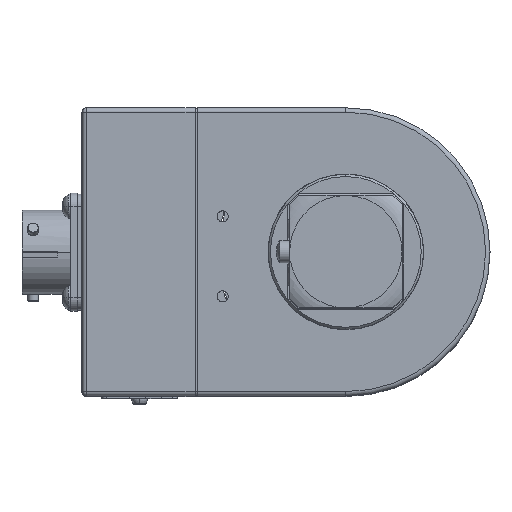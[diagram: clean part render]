
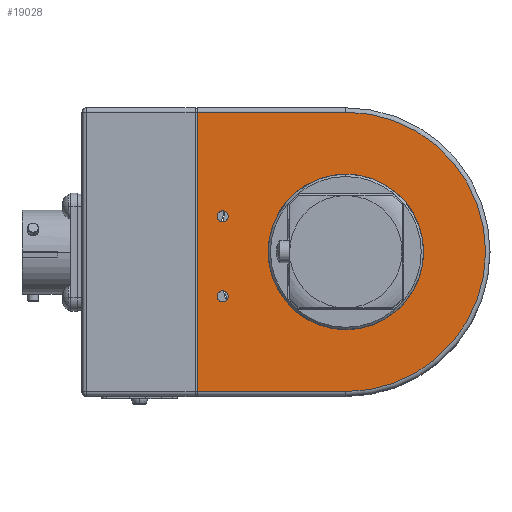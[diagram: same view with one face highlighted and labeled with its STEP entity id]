
A CAD part, top view. The second image highlights one B-rep face of the part: STEP entity #19028.
In plain terms, the highlighted planar face has unit normal (0, 0, 1).
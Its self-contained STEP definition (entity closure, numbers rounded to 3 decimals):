
#18657=DIRECTION('',(1.,0.,0.));
#18658=VECTOR('',#18657,33.5);
#18659=CARTESIAN_POINT('',(-33.5,31.5,95.));
#18660=LINE('',#18659,#18658);
#18695=DIRECTION('',(-1.,0.,0.));
#18696=VECTOR('',#18695,33.5);
#18697=CARTESIAN_POINT('',(0.,-31.5,95.));
#18698=LINE('',#18697,#18696);
#18703=CARTESIAN_POINT('',(0.,0.,95.));
#18704=DIRECTION('',(0.,0.,1.));
#18705=DIRECTION('',(-1.,0.,0.));
#18706=AXIS2_PLACEMENT_3D('',#18703,#18704,#18705);
#18708=CARTESIAN_POINT('',(0.,0.,95.));
#18709=DIRECTION('',(0.,0.,1.));
#18710=DIRECTION('',(1.,0.,0.));
#18711=AXIS2_PLACEMENT_3D('',#18708,#18709,#18710);
#18713=CARTESIAN_POINT('',(-27.778,8.,95.));
#18714=DIRECTION('',(0.,0.,-1.));
#18715=DIRECTION('',(-1.,0.,0.));
#18716=AXIS2_PLACEMENT_3D('',#18713,#18714,#18715);
#18718=CARTESIAN_POINT('',(-27.778,8.,95.));
#18719=DIRECTION('',(0.,0.,-1.));
#18720=DIRECTION('',(1.,0.,0.));
#18721=AXIS2_PLACEMENT_3D('',#18718,#18719,#18720);
#18723=CARTESIAN_POINT('',(-27.778,-10.,95.));
#18724=DIRECTION('',(0.,0.,1.));
#18725=DIRECTION('',(1.,0.,0.));
#18726=AXIS2_PLACEMENT_3D('',#18723,#18724,#18725);
#18728=CARTESIAN_POINT('',(-27.778,-10.,95.));
#18729=DIRECTION('',(0.,0.,1.));
#18730=DIRECTION('',(-1.,0.,0.));
#18731=AXIS2_PLACEMENT_3D('',#18728,#18729,#18730);
#18733=CARTESIAN_POINT('',(0.,0.,95.));
#18734=DIRECTION('',(0.,0.,1.));
#18735=DIRECTION('',(0.,-1.,0.));
#18736=AXIS2_PLACEMENT_3D('',#18733,#18734,#18735);
#18738=DIRECTION('',(0.,1.,0.));
#18739=VECTOR('',#18738,63.);
#18740=CARTESIAN_POINT('',(-33.5,-31.5,95.));
#18741=LINE('',#18740,#18739);
#18742=CARTESIAN_POINT('',(0.,0.,95.));
#18743=DIRECTION('',(0.,0.,1.));
#18744=DIRECTION('',(1.,0.,0.));
#18745=AXIS2_PLACEMENT_3D('',#18742,#18743,#18744);
#18868=CARTESIAN_POINT('',(0.,-31.5,95.));
#18869=VERTEX_POINT('',#18868);
#18892=CARTESIAN_POINT('',(-33.5,-31.5,95.));
#18893=VERTEX_POINT('',#18892);
#18894=CARTESIAN_POINT('',(31.5,0.,95.));
#18895=CARTESIAN_POINT('',(0.,31.5,95.));
#18896=VERTEX_POINT('',#18894);
#18897=VERTEX_POINT('',#18895);
#18898=CARTESIAN_POINT('',(-33.5,31.5,95.));
#18899=VERTEX_POINT('',#18898);
#18902=CARTESIAN_POINT('',(-17.55,0.,95.));
#18903=CARTESIAN_POINT('',(17.55,0.,95.));
#18904=VERTEX_POINT('',#18902);
#18905=VERTEX_POINT('',#18903);
#18914=CARTESIAN_POINT('',(-26.528,-10.,95.));
#18915=CARTESIAN_POINT('',(-29.028,-10.,95.));
#18916=VERTEX_POINT('',#18914);
#18917=VERTEX_POINT('',#18915);
#18919=CARTESIAN_POINT('',(-26.528,8.,95.));
#18921=VERTEX_POINT('',#18919);
#18923=CARTESIAN_POINT('',(-29.028,8.,95.));
#18925=VERTEX_POINT('',#18923);
#18997=CARTESIAN_POINT('',(32.5,-32.5,95.));
#18998=DIRECTION('',(0.,0.,-1.));
#18999=DIRECTION('',(-1.,0.,0.));
#19000=AXIS2_PLACEMENT_3D('',#18997,#18998,#18999);
#19001=PLANE('',#19000);
#19002=ORIENTED_EDGE('',*,*,#18956,.F.);
#19003=ORIENTED_EDGE('',*,*,#18982,.T.);
#19005=ORIENTED_EDGE('',*,*,#19004,.T.);
#19006=ORIENTED_EDGE('',*,*,#18933,.T.);
#19007=ORIENTED_EDGE('',*,*,#18958,.F.);
#19008=EDGE_LOOP('',(#19002,#19003,#19005,#19006,#19007));
#19009=FACE_OUTER_BOUND('',#19008,.F.);
#19011=ORIENTED_EDGE('',*,*,#19010,.F.);
#19013=ORIENTED_EDGE('',*,*,#19012,.F.);
#19014=EDGE_LOOP('',(#19011,#19013));
#19015=FACE_BOUND('',#19014,.F.);
#19017=ORIENTED_EDGE('',*,*,#19016,.T.);
#19019=ORIENTED_EDGE('',*,*,#19018,.T.);
#19020=EDGE_LOOP('',(#19017,#19019));
#19021=FACE_BOUND('',#19020,.F.);
#19023=ORIENTED_EDGE('',*,*,#19022,.T.);
#19025=ORIENTED_EDGE('',*,*,#19024,.T.);
#19026=EDGE_LOOP('',(#19023,#19025));
#19027=FACE_BOUND('',#19026,.F.);
#18707=CIRCLE('',#18706,17.55);
#18712=CIRCLE('',#18711,17.55);
#18717=CIRCLE('',#18716,1.25);
#18722=CIRCLE('',#18721,1.25);
#18727=CIRCLE('',#18726,1.25);
#18732=CIRCLE('',#18731,1.25);
#18737=CIRCLE('',#18736,31.5);
#18746=CIRCLE('',#18745,31.5);
#18933=EDGE_CURVE('',#18899,#18897,#18660,.T.);
#18956=EDGE_CURVE('',#18869,#18896,#18737,.T.);
#18958=EDGE_CURVE('',#18896,#18897,#18746,.T.);
#18982=EDGE_CURVE('',#18869,#18893,#18698,.T.);
#19004=EDGE_CURVE('',#18893,#18899,#18741,.T.);
#19010=EDGE_CURVE('',#18925,#18921,#18717,.T.);
#19012=EDGE_CURVE('',#18921,#18925,#18722,.T.);
#19016=EDGE_CURVE('',#18916,#18917,#18727,.T.);
#19018=EDGE_CURVE('',#18917,#18916,#18732,.T.);
#19022=EDGE_CURVE('',#18904,#18905,#18707,.T.);
#19024=EDGE_CURVE('',#18905,#18904,#18712,.T.);
#19028=ADVANCED_FACE('',(#19009,#19015,#19021,#19027),#19001,.F.);
